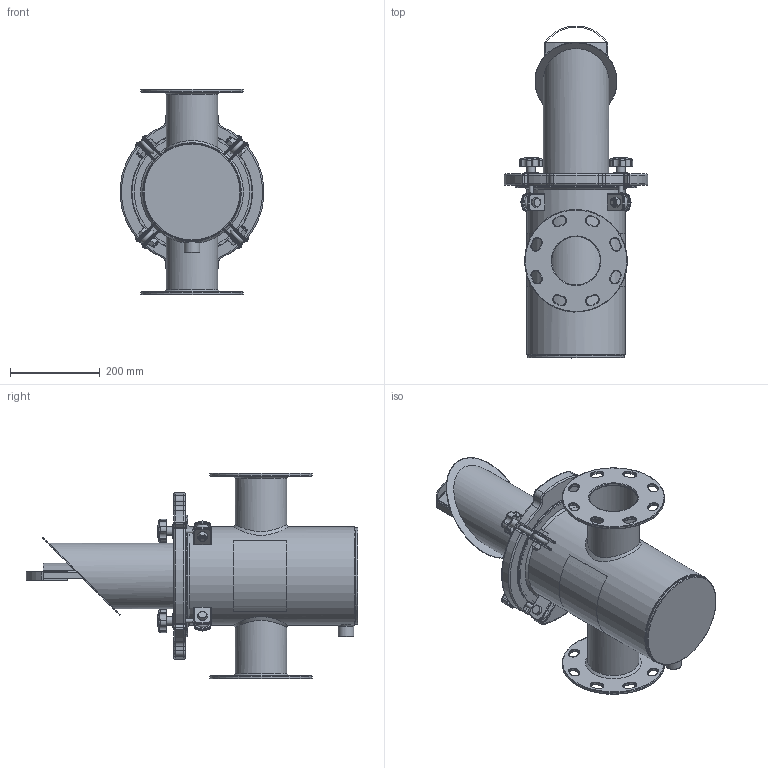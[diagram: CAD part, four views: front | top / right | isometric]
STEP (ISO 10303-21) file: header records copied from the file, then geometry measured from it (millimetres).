
FILE_DESCRIPTION(/* description */ ('8 5/8" STRAINER BODY'),/* implementation_level */ '2;1');
FILE_NAME(/* name */ 'C:\Users\r.kommineni.ext\Desktop\NB\CAD\Workspace\SS Straight\Guardian SS H&L Strainer (Inch)_CLEARANCE VOLUME\STRAINER H&L GUARDIAN 4(_DQ).stp',/* time_stamp */ '2017-06-09T13:07:44-04:00',/* author */ ('r.kommineni.ext'),/* organization */ (''),/* preprocessor_version */ 'ST-DEVELOPER v16.1',/* originating_system */ 'Autodesk Inventor 2016',/* authorisation */ '');
FILE_SCHEMA (('CONFIG_CONTROL_DESIGN'));
Length unit declared in the file: inch
Products named in the file (29): NBSSBODY04_Welds; FOR NBSSBODY04; FOR 8 5(_FS)8 DIA STRAINER BODY; FOR 8 5(_FS)8 DIA STRAINER BODY_1; 8 5(_FS)8 Body; ConcentricPipe-4(_DQ); 4(_DQ); For 8 5(_FS)8 Body; ASME B16.11 Half Coupling Threaded - Class 3000 3_4 x 3_4; 8 5(_FS)8 Body_1; NBSSBODY04; 150NBCVR13R1; 150NBGSK08R1; Perforated Basket 8in; Bride (Ring) 8in; Baffle 8in; Handle 8in; Bottom Strainer 8in; Nut- 1_2  UNC; Bolt-1_2 x 1 1_2  UNC; EyeBolt; Washer; Knob M10; Securing Assembly without Brace; Label for 8.625 inch (Right); Label for 8.625 inch (Left); NBBSK04T316_clearance; NBBSK04T316_clearance_1; STRAINER H&L GUARDIAN  4(_DQ)
Assembly tree (43 placements, depth 3):
  STRAINER H&L GUARDIAN  4(_DQ)
    NBSSBODY04
      NBSSBODY04_Welds
      FOR NBSSBODY04
      FOR 8 5(_FS)8 DIA STRAINER BODY
      FOR 8 5(_FS)8 DIA STRAINER BODY_1
      8 5(_FS)8 Body  x4
      ConcentricPipe-4(_DQ)  x2
      4(_DQ)  x2
      For 8 5(_FS)8 Body
      ASME B16.11 Half Coupling Threaded - Class 3000 3_4 x 3_4
      8 5(_FS)8 Body_1  x8
    150NBCVR13R1
    150NBGSK08R1
    NBBSK04T316_clearance_1
      Perforated Basket 8in
      Bride (Ring) 8in
      Baffle 8in
      Handle 8in
      Bottom Strainer 8in
      NBBSK04T316_clearance
    Securing Assembly without Brace  x4
      Nut- 1_2  UNC
      Bolt-1_2 x 1 1_2  UNC
      EyeBolt
      Washer
      Knob M10
    Label for 8.625 inch (Right)
    Label for 8.625 inch (Left)
Bounding box: 319.64 x 738.88 x 457.2 mm (x, y, z)
Volume: 4660164.8 mm3; surface area: 2028615.1 mm2
Topology: 65 solids, 69 shells, 1346 faces, 3018 edges, 1794 vertices
Faces by surface type: cylinder 479, plane 382, torus 259, cone 97, bspline 69, sphere 60
Full cylindrical faces by diameter (mm): 3.175 x10, 6.35 x1, 8.382 x4, 9.525 x8, 10.592 x4, 12.7 x4, 15.875 x8, 19 x8, 19.05 x4, 22.8 x1, 22.809 x1, 31.75 x4, 35.052 x1, 107.95 x2, 108.742 x4, 114.3 x6, 142.875 x2, 146.05 x2, 148.59 x1, 211.534 x3, 212.725 x1, 215.9 x2, 219.075 x2, 222.25 x1, 228.6 x2, 257.175 x1, 263.525 x1, 269.875 x1
Entity records: 25236 total; most frequent: CARTESIAN_POINT 8649, DIRECTION 3593, ORIENTED_EDGE 2912, AXIS2_PLACEMENT_3D 1501, EDGE_CURVE 1481, VERTEX_POINT 948, EDGE_LOOP 853, CIRCLE 713
